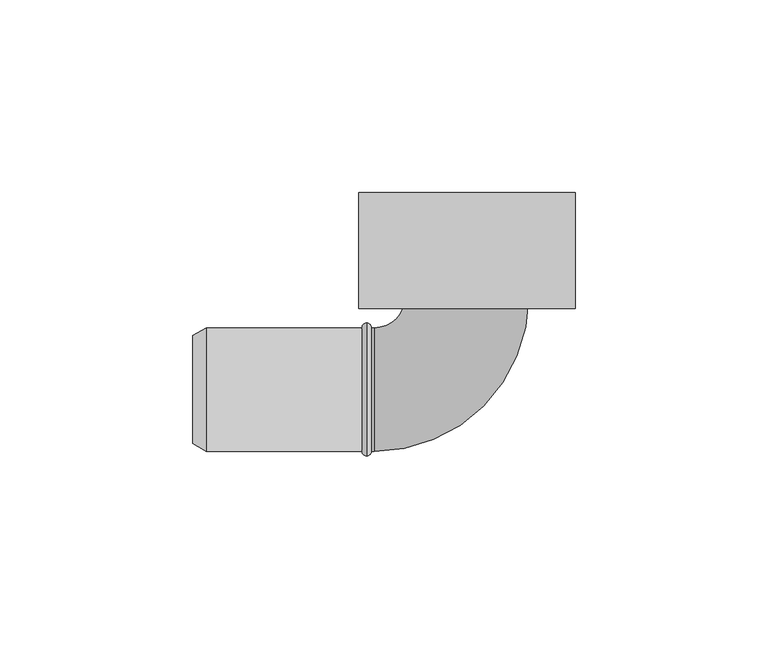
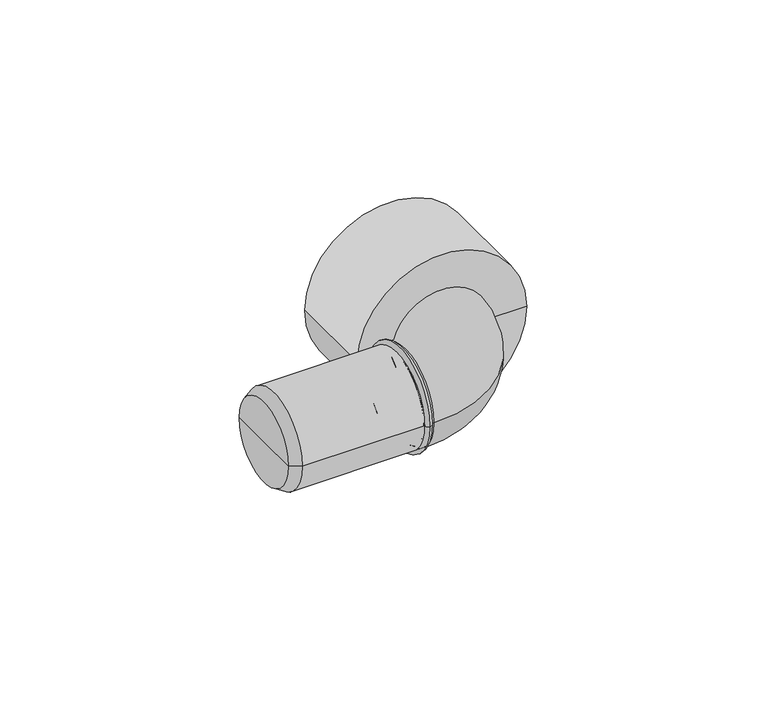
"""IFC4 building model written with IfcOpenShell, lengths in millimetres: pipe fitting geometry, NLRS_52_PIF_UN_Geberit Silent-PP aansluitbocht 90°_PRO_101520 : DN30-50 / d32-58 - OD."""

from ifc_helpers import new_model, si_unit, point, frame, origin, place, context, project, spatial, polyline, circle_curve, ellipse_curve, trimmed, source, transform, mapped, element, save
from ifc_brep_helpers import plane_surface, cylinder_surface, revolved_surface, advanced_brep


def pipe_fitting_4c57d8c3(model_context):
    return source(origin(), model_context, "Body", "AdvancedBrep", [
        advanced_brep(
        [(23.0, 26.0, 0.0), (-23.0, 26.0, 0.0), (0.0, 26.0, 0.0), (23.0, 51.0, 0.0), (-23.0, 51.0, 0.0), (28.0, 51.0, 0.0), (-28.0, 51.0, 0.0), (28.0, 21.0, 0.0), (-28.0, 21.0, 0.0), (0.0, 21.0, 0.0)],
        [
            (0, 1, circle_curve(frame((0.0, 26.0, 0.0), z_axis=(0.0, 1.0, 0.0), x_axis=(-1.0, 0.0, 0.0)), 23.0)),
            (1, 2),
            (2, 0),
            (1, 0, circle_curve(frame((0.0, 26.0, 0.0), z_axis=(0.0, 1.0, 0.0), x_axis=(-1.0, 0.0, 0.0)), 23.0)),
            (3, 4, circle_curve(frame((0.0, 51.0, 0.0), z_axis=(0.0, 1.0, 0.0), x_axis=(-1.0, 0.0, 0.0)), 23.0)),
            (4, 1),
            (0, 3),
            (4, 3, circle_curve(frame((0.0, 51.0, 0.0), z_axis=(0.0, 1.0, 0.0), x_axis=(-1.0, 0.0, 0.0)), 23.0)),
            (5, 6, circle_curve(frame((0.0, 51.0, 0.0), z_axis=(0.0, 1.0, 0.0), x_axis=(-1.0, 0.0, 0.0)), 28.0)),
            (6, 4),
            (3, 5),
            (6, 5, circle_curve(frame((0.0, 51.0, 0.0), z_axis=(0.0, 1.0, 0.0), x_axis=(-1.0, 0.0, 0.0)), 28.0)),
            (7, 8, circle_curve(frame((0.0, 21.0, 0.0), z_axis=(0.0, 1.0, 0.0), x_axis=(-1.0, 0.0, 0.0)), 28.0)),
            (8, 6),
            (5, 7),
            (8, 7, circle_curve(frame((0.0, 21.0, 0.0), z_axis=(0.0, 1.0, 0.0), x_axis=(-1.0, 0.0, 0.0)), 28.0)),
            (9, 8),
            (7, 9),
        ],
        [
            plane_surface(frame((0.0, 26.0, 0.0), z_axis=(0.0, 1.0, 0.0), x_axis=(-1.0, 0.0, 0.0))),
            revolved_surface(polyline([(-23.0, 26.0, 0.0), (-23.0, 51.0, 0.0)]), (0.0, 1.0, 0.0), (0.0, -1.0, 0.0)),
            plane_surface(frame((0.0, 51.0, 0.0), z_axis=(0.0, 1.0, 0.0), x_axis=(-1.0, 0.0, 0.0))),
            cylinder_surface(frame((0.0, 1.0, 0.0), z_axis=(0.0, -1.0, 0.0), x_axis=(-1.0, 0.0, 0.0)), 28.0),
            plane_surface(frame((0.0, 21.0, 0.0), z_axis=(0.0, -1.0, 0.0), x_axis=(-1.0, 0.0, 0.0))),
        ],
        [
            (0, [[1, 2, 3]]),
            (0, [[4, -3, -2]]),
            (1, [[5, 6, -1, 7]]),
            (1, [[8, -7, -4, -6]]),
            (2, [[9, 10, -5, 11]]),
            (2, [[12, -11, -8, -10]]),
            (3, [[13, 14, -9, 15]]),
            (3, [[16, -15, -12, -14]]),
            (4, [[17, -13, 18]]),
            (4, [[-18, -16, -17]]),
        ],
    ),
        advanced_brep(
        [(-71.0, 14.0, 0.0), (-71.0, -14.0, 0.0), (-71.0, 0.0, 0.0), (-67.5358984, 16.0, 0.0), (-67.5358984, -16.0, 0.0), (-26.0, 16.0, 0.0), (-26.0, -16.0, 0.0), (-26.0, 0.0, 0.0)],
        [
            (0, 1, circle_curve(frame((-71.0, 0.0, 0.0), z_axis=(-1.0, 0.0, 0.0), x_axis=(0.0, -1.0, 0.0)), 14.0)),
            (1, 2),
            (2, 0),
            (1, 0, circle_curve(frame((-71.0, 0.0, 0.0), z_axis=(-1.0, 0.0, 0.0), x_axis=(0.0, -1.0, 0.0)), 14.0)),
            (3, 4, circle_curve(frame((-67.5358984, 0.0, 0.0), z_axis=(-1.0, 0.0, 0.0), x_axis=(0.0, -1.0, 0.0)), 16.0)),
            (4, 1),
            (0, 3),
            (4, 3, circle_curve(frame((-67.5358984, 0.0, 0.0), z_axis=(-1.0, 0.0, 0.0), x_axis=(0.0, -1.0, 0.0)), 16.0)),
            (5, 6, circle_curve(frame((-26.0, 0.0, 0.0), z_axis=(-1.0, 0.0, 0.0), x_axis=(0.0, -1.0, 0.0)), 16.0)),
            (6, 4),
            (3, 5),
            (6, 5, circle_curve(frame((-26.0, 0.0, 0.0), z_axis=(-1.0, 0.0, 0.0), x_axis=(0.0, -1.0, 0.0)), 16.0)),
            (7, 6),
            (5, 7),
        ],
        [
            plane_surface(frame((-71.0, 0.0, 0.0), z_axis=(-1.0, 0.0, 0.0), x_axis=(0.0, -1.0, 0.0))),
            revolved_surface(polyline([(-71.0, -14.0, 0.0), (-67.5358984, -16.0, 0.0)]), (-86.0, 0.0, 0.0), (1.0, 0.0, 0.0)),
            cylinder_surface(frame((-86.0, 0.0, 0.0), z_axis=(1.0, 0.0, 0.0), x_axis=(0.0, -1.0, 0.0)), 16.0),
            plane_surface(frame((-26.0, 0.0, 0.0), z_axis=(1.0, 0.0, 0.0), x_axis=(0.0, -1.0, 0.0))),
        ],
        [
            (0, [[1, 2, 3]]),
            (0, [[4, -3, -2]]),
            (1, [[5, 6, -1, 7]]),
            (1, [[8, -7, -4, -6]]),
            (2, [[9, 10, -5, 11]]),
            (2, [[12, -11, -8, -10]]),
            (3, [[13, -9, 14]]),
            (3, [[-14, -12, -13]]),
        ],
    ),
        advanced_brep(
        [(-26.0, 17.25, 0.0), (-26.0, -17.25, 0.0), (-26.0, -14.75, 0.0), (-26.0, 14.75, 0.0)],
        [
            (0, 1, circle_curve(frame((-26.0, 0.0, 0.0), z_axis=(-1.0, 0.0, 0.0), x_axis=(0.0, -1.0, 0.0)), 17.25)),
            (1, 2, circle_curve(frame((-26.0, -16.0, 0.0), z_axis=(0.0, 0.0, -1.0), x_axis=(0.0, -1.0, 0.0)), 1.25)),
            (2, 3, circle_curve(frame((-26.0, 0.0, 0.0), z_axis=(1.0, 0.0, 0.0), x_axis=(0.0, -1.0, 0.0)), 14.75)),
            (3, 0, circle_curve(frame((-26.0, 16.0, 0.0), z_axis=(0.0, 0.0, -1.0), x_axis=(0.0, 1.0, 0.0)), 1.25)),
            (2, 1, circle_curve(frame((-26.0, -16.0, 0.0), z_axis=(0.0, 0.0, -1.0), x_axis=(0.0, -1.0, 0.0)), 1.25)),
            (0, 3, circle_curve(frame((-26.0, 16.0, 0.0), z_axis=(0.0, 0.0, -1.0), x_axis=(0.0, 1.0, 0.0)), 1.25)),
            (1, 0, circle_curve(frame((-26.0, 0.0, 0.0), z_axis=(-1.0, 0.0, 0.0), x_axis=(0.0, 1.0, 0.0)), 17.25)),
            (3, 2, circle_curve(frame((-26.0, 0.0, 0.0), z_axis=(1.0, 0.0, 0.0), x_axis=(0.0, 1.0, 0.0)), 14.75)),
        ],
        [
            revolved_surface(trimmed(ellipse_curve(frame((-26.0, -16.0, 0.0), z_axis=(0.0, 0.0, 1.0), x_axis=(0.0, -1.0, 0.0)), 1.25, 1.25), [point((-26.0, -14.75, 0.0))], [point((-26.0, -17.25, 0.0))], True, "CARTESIAN"), (-26.0, 0.0, 0.0), (1.0, 0.0, 0.0)),
            revolved_surface(trimmed(ellipse_curve(frame((-26.0, -16.0, 0.0), z_axis=(0.0, 0.0, 1.0), x_axis=(0.0, -1.0, 0.0)), 1.25, 1.25), [point((-26.0, -17.25, 0.0))], [point((-26.0, -14.75, 0.0))], True, "CARTESIAN"), (-26.0, 0.0, 0.0), (1.0, 0.0, 0.0)),
            revolved_surface(trimmed(ellipse_curve(frame((-26.0, 16.0, 0.0), z_axis=(0.0, 0.0, -1.0), x_axis=(0.0, 1.0, 0.0)), 1.25, 1.25), [point((-26.0, 14.75, 0.0))], [point((-26.0, 17.25, 0.0))], True, "CARTESIAN"), (-26.0, 0.0, 0.0), (1.0, 0.0, 0.0)),
            revolved_surface(trimmed(ellipse_curve(frame((-26.0, 16.0, 0.0), z_axis=(0.0, 0.0, -1.0), x_axis=(0.0, 1.0, 0.0)), 1.25, 1.25), [point((-26.0, 17.25, 0.0))], [point((-26.0, 14.75, 0.0))], True, "CARTESIAN"), (-26.0, 0.0, 0.0), (1.0, 0.0, 0.0)),
        ],
        [
            (0, [[1, 2, 3, 4]]),
            (1, [[-3, 5, -1, 6]]),
            (2, [[7, -4, 8, -2]]),
            (3, [[-8, -6, -7, -5]]),
        ],
    ),
        advanced_brep(
        [(-26.0, -16.0, 0.0), (-26.0, 16.0, 0.0), (-24.0, -16.0, 0.0), (-24.0, 16.0, 0.0), (-16.0, 24.0, 0.0), (16.0, 24.0, 0.0), (16.0, 26.0, 0.0), (-16.0, 26.0, 0.0)],
        [
            (0, 1, circle_curve(frame((-26.0, 0.0, 0.0), z_axis=(-1.0, 0.0, 0.0), x_axis=(0.0, 1.0, 0.0)), 16.0)),
            (1, 0, circle_curve(frame((-26.0, 0.0, 0.0), z_axis=(-1.0, 0.0, 0.0), x_axis=(0.0, 1.0, 0.0)), 16.0)),
            (0, 2),
            (2, 3, circle_curve(frame((-24.0, 0.0, 0.0), z_axis=(-1.0, 0.0, 0.0), x_axis=(0.0, 1.0, 0.0)), 16.0)),
            (3, 1),
            (3, 2, circle_curve(frame((-24.0, 0.0, 0.0), z_axis=(-1.0, 0.0, 0.0), x_axis=(0.0, 1.0, 0.0)), 16.0)),
            (4, 3, circle_curve(frame((-24.0, 24.0, 0.0), z_axis=(0.0, 0.0, -1.0), x_axis=(0.0, -1.0, 0.0)), 8.0)),
            (2, 5, circle_curve(frame((-24.0, 24.0, 0.0), z_axis=(0.0, 0.0, 1.0), x_axis=(0.0, -1.0, 0.0)), 40.0)),
            (5, 4, circle_curve(frame((0.0, 24.0, 0.0), z_axis=(0.0, -1.0, 0.0), x_axis=(-1.0, 0.0, 0.0)), 16.0)),
            (4, 5, circle_curve(frame((0.0, 24.0, 0.0), z_axis=(0.0, -1.0, 0.0), x_axis=(-1.0, 0.0, 0.0)), 16.0)),
            (6, 7, circle_curve(frame((0.0, 26.0, 0.0), z_axis=(0.0, 1.0, 0.0), x_axis=(-1.0, 0.0, 0.0)), 16.0)),
            (7, 6, circle_curve(frame((0.0, 26.0, 0.0), z_axis=(0.0, 1.0, 0.0), x_axis=(-1.0, 0.0, 0.0)), 16.0)),
            (5, 6),
            (7, 4),
        ],
        [
            plane_surface(frame((-26.0, 0.0, 0.0), z_axis=(-1.0, 0.0, 0.0), x_axis=(0.0, 0.0, 1.0))),
            cylinder_surface(frame((-26.0, 0.0, 0.0), z_axis=(-1.0, 0.0, 0.0), x_axis=(0.0, 1.0, 0.0)), 16.0),
            revolved_surface(trimmed(ellipse_curve(frame((-24.0, 0.0, 0.0), z_axis=(-1.0, 0.0, 0.0), x_axis=(0.0, 1.0, 0.0)), 16.0, 16.0), [point((-24.0, -16.0, 0.0))], [point((-24.0, 16.0, 0.0))], True, "CARTESIAN"), (-24.0, 24.0, 0.0), (0.0, 0.0, 1.0)),
            revolved_surface(trimmed(ellipse_curve(frame((-24.0, 0.0, 0.0), z_axis=(-1.0, 0.0, 0.0), x_axis=(0.0, 1.0, 0.0)), 16.0, 16.0), [point((-24.0, 16.0, 0.0))], [point((-24.0, -16.0, 0.0))], True, "CARTESIAN"), (-24.0, 24.0, 0.0), (0.0, 0.0, 1.0)),
            plane_surface(frame((0.0, 26.0, 0.0), z_axis=(0.0, 1.0, 0.0), x_axis=(0.0, 0.0, 1.0))),
            cylinder_surface(frame((0.0, 24.0, 0.0), z_axis=(0.0, -1.0, 0.0), x_axis=(-1.0, 0.0, 0.0)), 16.0),
        ],
        [
            (0, [[1, 2]]),
            (1, [[-1, 3, 4, 5]]),
            (1, [[-2, -5, 6, -3]]),
            (2, [[7, -4, 8, 9]]),
            (3, [[-8, -6, -7, 10]]),
            (4, [[11, 12]]),
            (5, [[-9, 13, -12, 14]]),
            (5, [[-10, -14, -11, -13]]),
        ],
    ),
    ])


if __name__ == "__main__":
    model = new_model("IFC4")
    model_context = context("Model", 3, world=origin())
    ifc_project = project(units=[si_unit("LENGTHUNIT", "METRE", prefix="MILLI")], contexts=[model_context])
    site = spatial("IfcSite", under=ifc_project)
    building = spatial("IfcBuilding", under=site)
    placement = place(None, origin())
    pipe_fitting_shape = pipe_fitting_4c57d8c3(model_context)
    element("IfcPipeFitting", 1, ObjectType="NLRS_52_PIF_UN_Geberit Silent-PP aansluitbocht 90°_PRO_101520 : DN30-50 / d32-58 - OD", at=placement, inside=building, context=model_context, shape_type="MappedRepresentation", body=[
        mapped(pipe_fitting_shape, transform((0.0, 0.0, 0.0), x_axis=(1.0, 0.0, 0.0), y_axis=(0.0, 1.0, 0.0), z_axis=(0.0, 0.0, 1.0))),
    ])
    save(model, "model.ifc")
